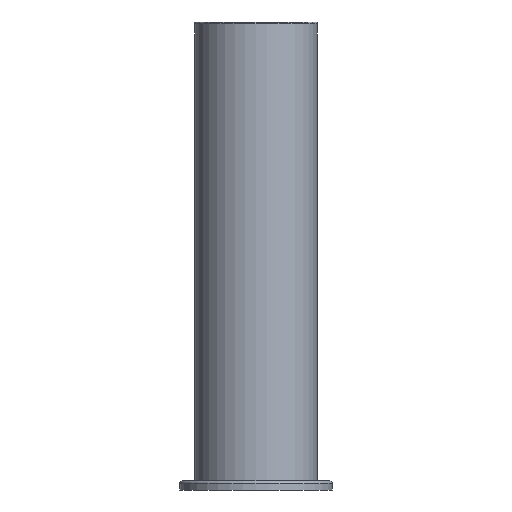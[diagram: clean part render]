
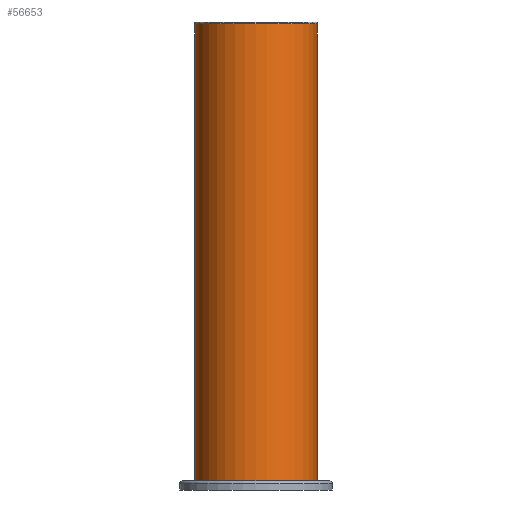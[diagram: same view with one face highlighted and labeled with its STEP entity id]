
A CAD part, front view. The second image highlights one B-rep face of the part: STEP entity #56653.
In plain terms, the highlighted cylindrical face has radius 20 mm (diameter 40 mm), a partial arc.
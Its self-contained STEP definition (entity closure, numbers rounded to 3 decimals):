
#4218 = DIRECTION ( 'NONE',  ( 0., 0., -1. ) ) ;
#5346 = LINE ( 'NONE', #70035, #53402 ) ;
#6966 = DIRECTION ( 'NONE',  ( 0., 0., 1. ) ) ;
#15366 = LINE ( 'NONE', #79134, #139476 ) ;
#18821 = CIRCLE ( 'NONE', #62339, 20. ) ;
#21343 = ORIENTED_EDGE ( 'NONE', *, *, #53110, .T. ) ;
#21870 = ORIENTED_EDGE ( 'NONE', *, *, #68285, .T. ) ;
#33587 = CIRCLE ( 'NONE', #128693, 20. ) ;
#34111 = EDGE_CURVE ( 'NONE', #143211, #114727, #33587, .T. ) ;
#37809 = ORIENTED_EDGE ( 'NONE', *, *, #45415, .T. ) ;
#45415 = EDGE_CURVE ( 'NONE', #140489, #143211, #141437, .T. ) ;
#45512 = LINE ( 'NONE', #137325, #125736 ) ;
#45907 = CARTESIAN_POINT ( 'NONE',  ( 0., 0., 139.5 ) ) ;
#46810 = DIRECTION ( 'NONE',  ( 0., 0., -1. ) ) ;
#50160 = FACE_OUTER_BOUND ( 'NONE', #115914, .T. ) ;
#53110 = EDGE_CURVE ( 'NONE', #140994, #68787, #18821, .T. ) ;
#53402 = VECTOR ( 'NONE', #109135, 1000. ) ;
#56653 = ADVANCED_FACE ( 'NONE', ( #50160 ), #102019, .T. ) ;
#61278 = CARTESIAN_POINT ( 'NONE',  ( 0., 0., 140. ) ) ;
#62339 = AXIS2_PLACEMENT_3D ( 'NONE', #160105, #6966, #136299 ) ;
#64865 = DIRECTION ( 'NONE',  ( 0., 0., 1. ) ) ;
#68285 = EDGE_CURVE ( 'NONE', #146075, #140994, #5346, .T. ) ;
#68787 = VERTEX_POINT ( 'NONE', #102869 ) ;
#70035 = CARTESIAN_POINT ( 'NONE',  ( -20., 0., 140. ) ) ;
#79134 = CARTESIAN_POINT ( 'NONE',  ( 20., 0., 140. ) ) ;
#88168 = EDGE_CURVE ( 'NONE', #140489, #68787, #15366, .T. ) ;
#88727 = VECTOR ( 'NONE', #64865, 1000. ) ;
#93685 = CARTESIAN_POINT ( 'NONE',  ( -20., 0., 139.5 ) ) ;
#94044 = ORIENTED_EDGE ( 'NONE', *, *, #88168, .F. ) ;
#97709 = DIRECTION ( 'NONE',  ( 0., 0., -1. ) ) ;
#98701 = ORIENTED_EDGE ( 'NONE', *, *, #144341, .T. ) ;
#98717 = CARTESIAN_POINT ( 'NONE',  ( 20., 0., 139.5 ) ) ;
#102019 = CYLINDRICAL_SURFACE ( 'NONE', #155371, 20. ) ;
#102869 = CARTESIAN_POINT ( 'NONE',  ( 20., 0., -10. ) ) ;
#109135 = DIRECTION ( 'NONE',  ( 0., 0., -1. ) ) ;
#111371 = DIRECTION ( 'NONE',  ( -1., 0., 0. ) ) ;
#113160 = DIRECTION ( 'NONE',  ( -1., 0., 0. ) ) ;
#114727 = VERTEX_POINT ( 'NONE', #93685 ) ;
#115914 = EDGE_LOOP ( 'NONE', ( #94044, #37809, #134770, #98701, #21870, #21343 ) ) ;
#115951 = CARTESIAN_POINT ( 'NONE',  ( 20., 0., 135.717 ) ) ;
#125736 = VECTOR ( 'NONE', #149182, 1000. ) ;
#128693 = AXIS2_PLACEMENT_3D ( 'NONE', #45907, #97709, #111371 ) ;
#134770 = ORIENTED_EDGE ( 'NONE', *, *, #34111, .T. ) ;
#136299 = DIRECTION ( 'NONE',  ( -1., 0., 0. ) ) ;
#136330 = CARTESIAN_POINT ( 'NONE',  ( -20., 0., 135.717 ) ) ;
#137325 = CARTESIAN_POINT ( 'NONE',  ( -20., 0., 140. ) ) ;
#139476 = VECTOR ( 'NONE', #4218, 1000. ) ;
#140489 = VERTEX_POINT ( 'NONE', #115951 ) ;
#140994 = VERTEX_POINT ( 'NONE', #162285 ) ;
#141437 = LINE ( 'NONE', #156657, #88727 ) ;
#143211 = VERTEX_POINT ( 'NONE', #98717 ) ;
#144341 = EDGE_CURVE ( 'NONE', #114727, #146075, #45512, .T. ) ;
#146075 = VERTEX_POINT ( 'NONE', #136330 ) ;
#149182 = DIRECTION ( 'NONE',  ( 0., 0., -1. ) ) ;
#155371 = AXIS2_PLACEMENT_3D ( 'NONE', #61278, #46810, #113160 ) ;
#156657 = CARTESIAN_POINT ( 'NONE',  ( 20., 0., 140. ) ) ;
#160105 = CARTESIAN_POINT ( 'NONE',  ( 0., 0., -10. ) ) ;
#162285 = CARTESIAN_POINT ( 'NONE',  ( -20., 0., -10. ) ) ;
